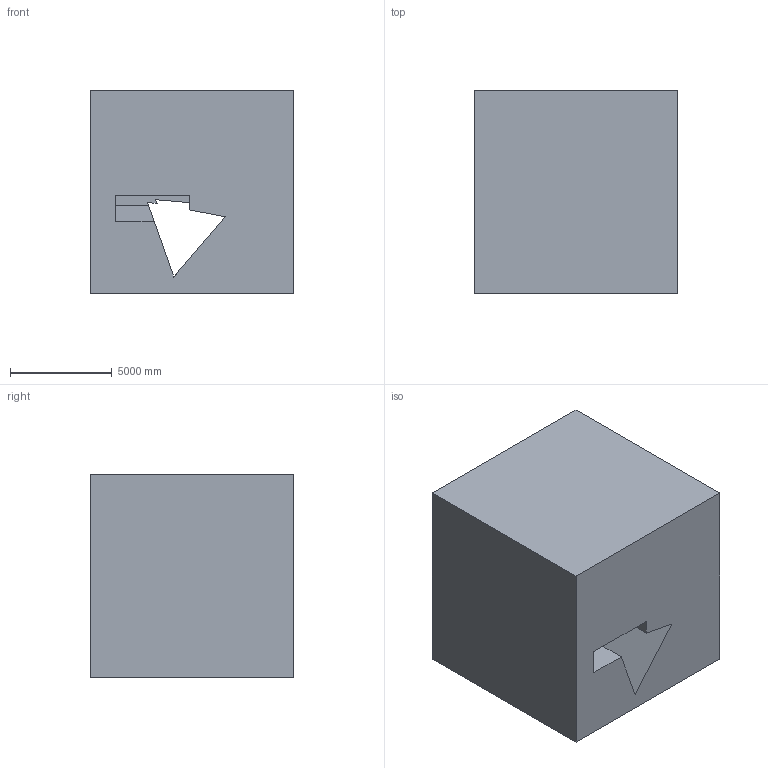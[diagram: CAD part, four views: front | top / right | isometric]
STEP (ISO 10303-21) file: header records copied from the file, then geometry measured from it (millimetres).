
FILE_DESCRIPTION (( 'STEP AP203' ), '1' );
FILE_NAME ('272.STEP', '2022-09-07T15:12:32', ( 'user' ), ( '' ), 'SwSTEP 2.0', 'SolidWorks 2021', '' );
FILE_SCHEMA (( 'CONFIG_CONTROL_DESIGN' ));
Length unit declared in the file: centimetre
Products named in the file (1): 272
Bounding box: 10000 x 10000 x 10000 mm (x, y, z)
Volume: 881770111132.4 mm3; surface area: 776055665.8 mm2
Topology: 1 solids, 1 shells, 30 faces, 87 edges, 58 vertices
Faces by surface type: plane 30
Entity records: 1056 total; most frequent: CARTESIAN_POINT 176, ORIENTED_EDGE 174, DIRECTION 149, LINE 87, VECTOR 87, EDGE_CURVE 87, VERTEX_POINT 58, EDGE_LOOP 33
